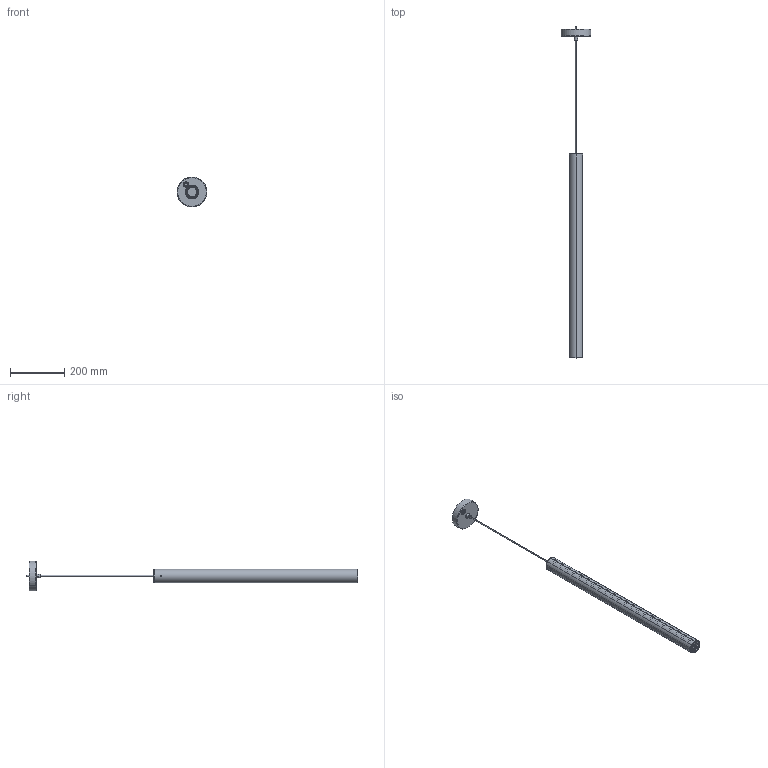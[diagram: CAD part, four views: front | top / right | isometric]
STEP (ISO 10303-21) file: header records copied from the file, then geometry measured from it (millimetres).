
FILE_DESCRIPTION (( 'STEP AP214' ), '1' );
FILE_NAME ('3D_ILIUM_LED_PENDANT.STEP', '2018-02-23T14:41:28', ( 'Utente' ), ( '' ), 'SwSTEP 2.0', 'SolidWorks 2016', '' );
FILE_SCHEMA (( 'AUTOMOTIVE_DESIGN' ));
Length unit declared in the file: millimetre
Products named in the file (10): Parte17^3D_ILIUM_LED_PENDANT; 051ILI800610 - tubo forato-6^3D_ILIUM_LED_PENDANT; 061ILI700600 - VETRO CONTURAX L=750 D=50 FORI-1^3D_ILIUM_LED_PENDANT; Group6^3D_ILIUM_LED_PENDANT; 3D_ILIUM_LED_PENDANT; 052ILI701400 - diffusore led-1^3D_ILIUM_LED_PENDANT; rosone crown-1^3D_ILIUM_LED_PENDANT; vite tcei m3x 10-3^3D_ILIUM_LED_PENDANT; 052ILI801310 - Tubo PC forato-1^3D_ILIUM_LED_PENDANT; vite tcei m3x 10-1^3D_ILIUM_LED_PENDANT
Assembly tree (9 placements, depth 2):
  3D_ILIUM_LED_PENDANT
    Group6^3D_ILIUM_LED_PENDANT
    061ILI700600 - VETRO CONTURAX L=750 D=50 FORI-1^3D_ILIUM_LED_PENDANT
    051ILI800610 - tubo forato-6^3D_ILIUM_LED_PENDANT
    Parte17^3D_ILIUM_LED_PENDANT
    vite tcei m3x 10-1^3D_ILIUM_LED_PENDANT
    052ILI801310 - Tubo PC forato-1^3D_ILIUM_LED_PENDANT
    vite tcei m3x 10-3^3D_ILIUM_LED_PENDANT
    rosone crown-1^3D_ILIUM_LED_PENDANT
    052ILI701400 - diffusore led-1^3D_ILIUM_LED_PENDANT
Bounding box: 109.98 x 1219 x 109.98 mm (x, y, z)
Volume: 610248.1 mm3; surface area: 473308.3 mm2
Topology: 9 solids, 9 shells, 317 faces, 780 edges, 482 vertices
Faces by surface type: torus 126, cylinder 106, plane 75, cone 10
Entity records: 10830 total; most frequent: CARTESIAN_POINT 2531, DIRECTION 1922, ORIENTED_EDGE 1560, AXIS2_PLACEMENT_3D 877, EDGE_CURVE 780, CIRCLE 548, VERTEX_POINT 482, EDGE_LOOP 332
